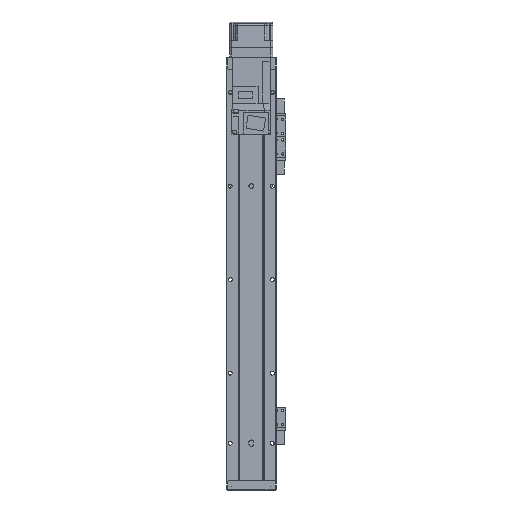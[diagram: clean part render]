
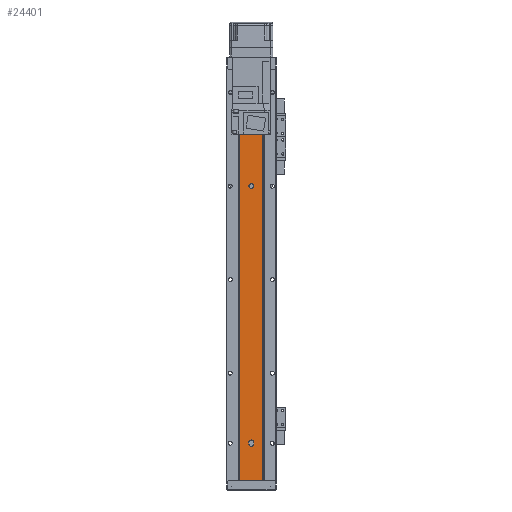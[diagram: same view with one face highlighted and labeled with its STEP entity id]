
A CAD part, front view. The second image highlights one B-rep face of the part: STEP entity #24401.
In plain terms, the highlighted planar face has unit normal (0, -1, 0).
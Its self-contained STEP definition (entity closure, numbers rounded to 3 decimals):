
#382 = CARTESIAN_POINT ( 'NONE',  ( 12.293, 1.5, -440. ) ) ;
#954 = CARTESIAN_POINT ( 'NONE',  ( 0., 1.5, -125. ) ) ;
#1032 = EDGE_CURVE ( 'NONE', #23617, #5481, #22596, .T. ) ;
#1064 = CARTESIAN_POINT ( 'NONE',  ( -12.293, 1.5, -440. ) ) ;
#1065 = ORIENTED_EDGE ( 'NONE', *, *, #22880, .F. ) ;
#1854 = FACE_BOUND ( 'NONE', #16856, .T. ) ;
#1973 = CARTESIAN_POINT ( 'NONE',  ( 2.5, 1.5, -440. ) ) ;
#2362 = VERTEX_POINT ( 'NONE', #6918 ) ;
#2523 = ORIENTED_EDGE ( 'NONE', *, *, #1032, .F. ) ;
#3328 = EDGE_CURVE ( 'NONE', #4071, #7528, #17214, .T. ) ;
#3987 = LINE ( 'NONE', #34481, #31616 ) ;
#4030 = CARTESIAN_POINT ( 'NONE',  ( 12.293, 1.5, -440. ) ) ;
#4071 = VERTEX_POINT ( 'NONE', #29573 ) ;
#4287 = EDGE_CURVE ( 'NONE', #20012, #28662, #31262, .T. ) ;
#4482 = CARTESIAN_POINT ( 'NONE',  ( 0., 1.5, -25. ) ) ;
#4552 = ORIENTED_EDGE ( 'NONE', *, *, #3328, .F. ) ;
#4718 = DIRECTION ( 'NONE',  ( 0., -1., 0. ) ) ;
#5481 = VERTEX_POINT ( 'NONE', #24244 ) ;
#5773 = CARTESIAN_POINT ( 'NONE',  ( 2.5, 1.5, -399. ) ) ;
#6875 = DIRECTION ( 'NONE',  ( 1., 0., 0. ) ) ;
#6918 = CARTESIAN_POINT ( 'NONE',  ( -12.293, 1.5, 0. ) ) ;
#6997 = DIRECTION ( 'NONE',  ( 0., -1., 0. ) ) ;
#7528 = VERTEX_POINT ( 'NONE', #17474 ) ;
#8001 = DIRECTION ( 'NONE',  ( 1., 0., 0. ) ) ;
#8300 = VECTOR ( 'NONE', #14101, 1000. ) ;
#9016 = CIRCLE ( 'NONE', #15503, 2.5 ) ;
#9527 = AXIS2_PLACEMENT_3D ( 'NONE', #28119, #4718, #22237 ) ;
#9557 = CARTESIAN_POINT ( 'NONE',  ( 12.293, 1.5, -440. ) ) ;
#9952 = EDGE_CURVE ( 'NONE', #36772, #30982, #25587, .T. ) ;
#9965 = CARTESIAN_POINT ( 'NONE',  ( 0., 1.5, -125. ) ) ;
#10769 = CARTESIAN_POINT ( 'NONE',  ( 0., 1.5, -25. ) ) ;
#10771 = VERTEX_POINT ( 'NONE', #382 ) ;
#12245 = DIRECTION ( 'NONE',  ( 1., 0., 0. ) ) ;
#12397 = AXIS2_PLACEMENT_3D ( 'NONE', #9965, #6997, #6875 ) ;
#13730 = DIRECTION ( 'NONE',  ( 0., -1., 0. ) ) ;
#14101 = DIRECTION ( 'NONE',  ( 0., 0., 1. ) ) ;
#14537 = ORIENTED_EDGE ( 'NONE', *, *, #33426, .F. ) ;
#14805 = CARTESIAN_POINT ( 'NONE',  ( -2.5, 1.5, -440. ) ) ;
#15285 = AXIS2_PLACEMENT_3D ( 'NONE', #4030, #36595, #27572 ) ;
#15308 = DIRECTION ( 'NONE',  ( 0., -1., 0. ) ) ;
#15503 = AXIS2_PLACEMENT_3D ( 'NONE', #4482, #25064, #8001 ) ;
#15659 = DIRECTION ( 'NONE',  ( 0., -1., 0. ) ) ;
#16084 = PLANE ( 'NONE',  #15285 ) ;
#16856 = EDGE_LOOP ( 'NONE', ( #1065, #4552 ) ) ;
#17214 = CIRCLE ( 'NONE', #20557, 2.5 ) ;
#17225 = ORIENTED_EDGE ( 'NONE', *, *, #18890, .F. ) ;
#17474 = CARTESIAN_POINT ( 'NONE',  ( 2.5, 1.5, -25. ) ) ;
#18154 = VECTOR ( 'NONE', #20969, 1000. ) ;
#18518 = FACE_BOUND ( 'NONE', #33614, .T. ) ;
#18890 = EDGE_CURVE ( 'NONE', #5481, #20012, #35679, .T. ) ;
#19015 = VECTOR ( 'NONE', #24347, 1000. ) ;
#19647 = EDGE_CURVE ( 'NONE', #30982, #36772, #30260, .T. ) ;
#19837 = FACE_OUTER_BOUND ( 'NONE', #24628, .T. ) ;
#20012 = VERTEX_POINT ( 'NONE', #5773 ) ;
#20258 = CARTESIAN_POINT ( 'NONE',  ( -2.5, 1.5, -399. ) ) ;
#20557 = AXIS2_PLACEMENT_3D ( 'NONE', #10769, #13730, #25141 ) ;
#20969 = DIRECTION ( 'NONE',  ( 0., 0., -1. ) ) ;
#21017 = VECTOR ( 'NONE', #34495, 1000. ) ;
#21134 = ORIENTED_EDGE ( 'NONE', *, *, #34384, .F. ) ;
#21396 = ORIENTED_EDGE ( 'NONE', *, *, #4287, .F. ) ;
#21568 = EDGE_CURVE ( 'NONE', #10771, #28132, #31838, .T. ) ;
#22237 = DIRECTION ( 'NONE',  ( 1., 0., 0. ) ) ;
#22542 = EDGE_CURVE ( 'NONE', #25079, #10771, #33952, .T. ) ;
#22596 = CIRCLE ( 'NONE', #37200, 2.5 ) ;
#22687 = CARTESIAN_POINT ( 'NONE',  ( -12.293, 1.5, -440. ) ) ;
#22880 = EDGE_CURVE ( 'NONE', #7528, #4071, #9016, .T. ) ;
#23599 = CARTESIAN_POINT ( 'NONE',  ( 12.293, 1.5, 0. ) ) ;
#23617 = VERTEX_POINT ( 'NONE', #37961 ) ;
#23853 = VECTOR ( 'NONE', #12245, 1000. ) ;
#24244 = CARTESIAN_POINT ( 'NONE',  ( 2.5, 1.5, -401. ) ) ;
#24347 = DIRECTION ( 'NONE',  ( 0., 0., 1. ) ) ;
#24401 = ADVANCED_FACE ( 'NONE', ( #18518, #25337, #1854, #19837 ), #16084, .T. ) ;
#24628 = EDGE_LOOP ( 'NONE', ( #21134, #14537, #28383, #27879 ) ) ;
#25064 = DIRECTION ( 'NONE',  ( 0., -1., 0. ) ) ;
#25079 = VERTEX_POINT ( 'NONE', #1064 ) ;
#25141 = DIRECTION ( 'NONE',  ( 1., 0., 0. ) ) ;
#25308 = LINE ( 'NONE', #22687, #8300 ) ;
#25337 = FACE_BOUND ( 'NONE', #34670, .T. ) ;
#25587 = CIRCLE ( 'NONE', #33915, 2.5 ) ;
#25744 = DIRECTION ( 'NONE',  ( 1., 0., 0. ) ) ;
#27417 = DIRECTION ( 'NONE',  ( 1., 0., 0. ) ) ;
#27572 = DIRECTION ( 'NONE',  ( 1., 0., 0. ) ) ;
#27879 = ORIENTED_EDGE ( 'NONE', *, *, #21568, .T. ) ;
#28119 = CARTESIAN_POINT ( 'NONE',  ( 0., 1.5, -399. ) ) ;
#28132 = VERTEX_POINT ( 'NONE', #23599 ) ;
#28383 = ORIENTED_EDGE ( 'NONE', *, *, #22542, .T. ) ;
#28662 = VERTEX_POINT ( 'NONE', #20258 ) ;
#28676 = ORIENTED_EDGE ( 'NONE', *, *, #9952, .F. ) ;
#29573 = CARTESIAN_POINT ( 'NONE',  ( -2.5, 1.5, -25. ) ) ;
#30260 = CIRCLE ( 'NONE', #12397, 2.5 ) ;
#30462 = CARTESIAN_POINT ( 'NONE',  ( -2.5, 1.5, -125. ) ) ;
#30982 = VERTEX_POINT ( 'NONE', #31953 ) ;
#31262 = CIRCLE ( 'NONE', #9527, 2.5 ) ;
#31616 = VECTOR ( 'NONE', #25744, 1000. ) ;
#31838 = LINE ( 'NONE', #33354, #19015 ) ;
#31953 = CARTESIAN_POINT ( 'NONE',  ( 2.5, 1.5, -125. ) ) ;
#32575 = EDGE_CURVE ( 'NONE', #28662, #23617, #37869, .T. ) ;
#33354 = CARTESIAN_POINT ( 'NONE',  ( 12.293, 1.5, -440. ) ) ;
#33426 = EDGE_CURVE ( 'NONE', #25079, #2362, #25308, .T. ) ;
#33614 = EDGE_LOOP ( 'NONE', ( #2523, #35541, #21396, #17225 ) ) ;
#33915 = AXIS2_PLACEMENT_3D ( 'NONE', #954, #15659, #27417 ) ;
#33952 = LINE ( 'NONE', #9557, #23853 ) ;
#34384 = EDGE_CURVE ( 'NONE', #2362, #28132, #3987, .T. ) ;
#34481 = CARTESIAN_POINT ( 'NONE',  ( 12.293, 1.5, 0. ) ) ;
#34495 = DIRECTION ( 'NONE',  ( 0., 0., 1. ) ) ;
#34670 = EDGE_LOOP ( 'NONE', ( #35843, #28676 ) ) ;
#35541 = ORIENTED_EDGE ( 'NONE', *, *, #32575, .F. ) ;
#35679 = LINE ( 'NONE', #1973, #21017 ) ;
#35690 = CARTESIAN_POINT ( 'NONE',  ( 0., 1.5, -401. ) ) ;
#35843 = ORIENTED_EDGE ( 'NONE', *, *, #19647, .F. ) ;
#36086 = DIRECTION ( 'NONE',  ( 1., 0., 0. ) ) ;
#36595 = DIRECTION ( 'NONE',  ( 0., -1., 0. ) ) ;
#36772 = VERTEX_POINT ( 'NONE', #30462 ) ;
#37200 = AXIS2_PLACEMENT_3D ( 'NONE', #35690, #15308, #36086 ) ;
#37869 = LINE ( 'NONE', #14805, #18154 ) ;
#37961 = CARTESIAN_POINT ( 'NONE',  ( -2.5, 1.5, -401. ) ) ;
